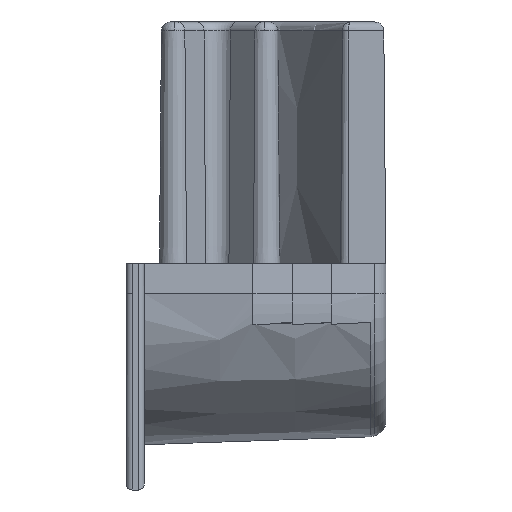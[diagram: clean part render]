
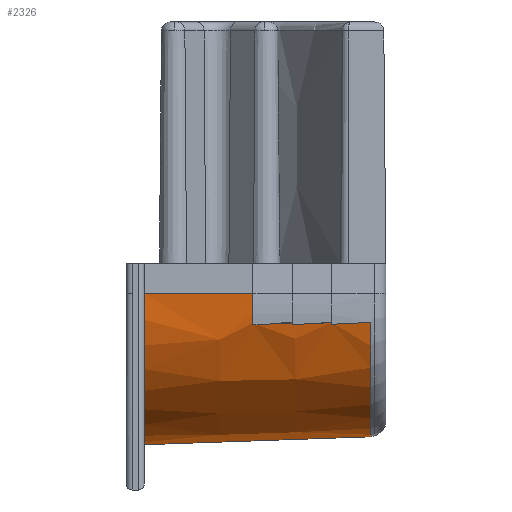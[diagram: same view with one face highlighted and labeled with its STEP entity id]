
A CAD part, left-side view. The second image highlights one B-rep face of the part: STEP entity #2326.
In plain terms, the highlighted conical face has half-angle 2 degrees and reference radius 5 mm.
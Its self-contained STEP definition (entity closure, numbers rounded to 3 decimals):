
#131 = DIRECTION ( 'NONE',  ( 0., -0.999, 0.035 ) ) ;
#184 = CARTESIAN_POINT ( 'NONE',  ( -3.9, 8., -1. ) ) ;
#186 = DIRECTION ( 'NONE',  ( 0.034, -0.999, 0.007 ) ) ;
#264 = DIRECTION ( 'NONE',  ( 0., -1., 0. ) ) ;
#283 = EDGE_CURVE ( 'NONE', #1176, #3043, #1782, .T. ) ;
#388 = EDGE_CURVE ( 'NONE', #459, #618, #2015, .T. ) ;
#459 = VERTEX_POINT ( 'NONE', #5054 ) ;
#580 = AXIS2_PLACEMENT_3D ( 'NONE', #184, #4611, #1953 ) ;
#594 = FACE_OUTER_BOUND ( 'NONE', #5402, .T. ) ;
#616 = CIRCLE ( 'NONE', #4608, 5. ) ;
#618 = VERTEX_POINT ( 'NONE', #2152 ) ;
#743 = DIRECTION ( 'NONE',  ( -1., 0., 0. ) ) ;
#756 = CARTESIAN_POINT ( 'NONE',  ( -8.587, 1.8, -1.957 ) ) ;
#871 = CIRCLE ( 'NONE', #2254, 4.874 ) ;
#956 = VERTEX_POINT ( 'NONE', #5021 ) ;
#1140 = VECTOR ( 'NONE', #2305, 1000. ) ;
#1160 = ORIENTED_EDGE ( 'NONE', *, *, #2739, .F. ) ;
#1176 = VERTEX_POINT ( 'NONE', #5728 ) ;
#1262 = DIRECTION ( 'NONE',  ( 0., 0., -1. ) ) ;
#1614 = CARTESIAN_POINT ( 'NONE',  ( -8.799, 8., -2. ) ) ;
#1771 = EDGE_CURVE ( 'NONE', #5618, #956, #4583, .T. ) ;
#1777 = CIRCLE ( 'NONE', #2507, 4.738 ) ;
#1782 = LINE ( 'NONE', #3531, #4306 ) ;
#1953 = DIRECTION ( 'NONE',  ( 0., 0., 1. ) ) ;
#1981 = EDGE_CURVE ( 'NONE', #956, #4620, #1777, .T. ) ;
#2015 = LINE ( 'NONE', #3680, #2250 ) ;
#2152 = CARTESIAN_POINT ( 'NONE',  ( -8.631, 3.1, -1.966 ) ) ;
#2234 = VECTOR ( 'NONE', #131, 1000. ) ;
#2250 = VECTOR ( 'NONE', #186, 1000. ) ;
#2254 = AXIS2_PLACEMENT_3D ( 'NONE', #5245, #264, #4691 ) ;
#2305 = DIRECTION ( 'NONE',  ( 0.034, -0.999, 0.007 ) ) ;
#2326 = ADVANCED_FACE ( 'NONE', ( #594 ), #4115, .T. ) ;
#2402 = ORIENTED_EDGE ( 'NONE', *, *, #4649, .T. ) ;
#2507 = AXIS2_PLACEMENT_3D ( 'NONE', #5170, #4287, #1262 ) ;
#2739 = EDGE_CURVE ( 'NONE', #5044, #4620, #4769, .T. ) ;
#2751 = ORIENTED_EDGE ( 'NONE', *, *, #283, .F. ) ;
#2920 = DIRECTION ( 'NONE',  ( 0.034, -0.999, 0.007 ) ) ;
#3006 = EDGE_CURVE ( 'NONE', #618, #5044, #3154, .T. ) ;
#3043 = VERTEX_POINT ( 'NONE', #3562 ) ;
#3068 = ORIENTED_EDGE ( 'NONE', *, *, #3148, .F. ) ;
#3148 = EDGE_CURVE ( 'NONE', #3043, #459, #871, .T. ) ;
#3154 = LINE ( 'NONE', #4451, #1140 ) ;
#3498 = CARTESIAN_POINT ( 'NONE',  ( -3.9, 8., -6. ) ) ;
#3531 = CARTESIAN_POINT ( 'NONE',  ( -8.774, 4.4, -1. ) ) ;
#3562 = CARTESIAN_POINT ( 'NONE',  ( -8.774, 4.4, -1. ) ) ;
#3649 = ORIENTED_EDGE ( 'NONE', *, *, #388, .F. ) ;
#3680 = CARTESIAN_POINT ( 'NONE',  ( -8.799, 8., -2. ) ) ;
#3771 = CARTESIAN_POINT ( 'NONE',  ( -8.542, 0.5, -1.948 ) ) ;
#3920 = ORIENTED_EDGE ( 'NONE', *, *, #1981, .T. ) ;
#4115 = CONICAL_SURFACE ( 'NONE', #580, 5., 0.035 ) ;
#4239 = CARTESIAN_POINT ( 'NONE',  ( -3.9, 4.4, -5.874 ) ) ;
#4240 = CARTESIAN_POINT ( 'NONE',  ( -3.9, 8., -1. ) ) ;
#4287 = DIRECTION ( 'NONE',  ( 0., 1., 0. ) ) ;
#4306 = VECTOR ( 'NONE', #5312, 1000. ) ;
#4451 = CARTESIAN_POINT ( 'NONE',  ( -8.799, 8., -2. ) ) ;
#4583 = LINE ( 'NONE', #4239, #2234 ) ;
#4608 = AXIS2_PLACEMENT_3D ( 'NONE', #4240, #5113, #743 ) ;
#4611 = DIRECTION ( 'NONE',  ( 0., 1., 0. ) ) ;
#4620 = VERTEX_POINT ( 'NONE', #3771 ) ;
#4649 = EDGE_CURVE ( 'NONE', #1176, #5618, #616, .T. ) ;
#4691 = DIRECTION ( 'NONE',  ( -1., 0., 0. ) ) ;
#4767 = VECTOR ( 'NONE', #2920, 1000. ) ;
#4769 = LINE ( 'NONE', #1614, #4767 ) ;
#4929 = ORIENTED_EDGE ( 'NONE', *, *, #1771, .T. ) ;
#5021 = CARTESIAN_POINT ( 'NONE',  ( -3.9, 0.5, -5.738 ) ) ;
#5044 = VERTEX_POINT ( 'NONE', #756 ) ;
#5054 = CARTESIAN_POINT ( 'NONE',  ( -8.676, 4.4, -1.975 ) ) ;
#5113 = DIRECTION ( 'NONE',  ( 0., -1., 0. ) ) ;
#5170 = CARTESIAN_POINT ( 'NONE',  ( -3.9, 0.5, -1. ) ) ;
#5245 = CARTESIAN_POINT ( 'NONE',  ( -3.9, 4.4, -1. ) ) ;
#5312 = DIRECTION ( 'NONE',  ( 0.035, -0.999, 0. ) ) ;
#5402 = EDGE_LOOP ( 'NONE', ( #2402, #4929, #3920, #1160, #5731, #3649, #3068, #2751 ) ) ;
#5618 = VERTEX_POINT ( 'NONE', #3498 ) ;
#5728 = CARTESIAN_POINT ( 'NONE',  ( -8.9, 8., -1. ) ) ;
#5731 = ORIENTED_EDGE ( 'NONE', *, *, #3006, .F. ) ;
